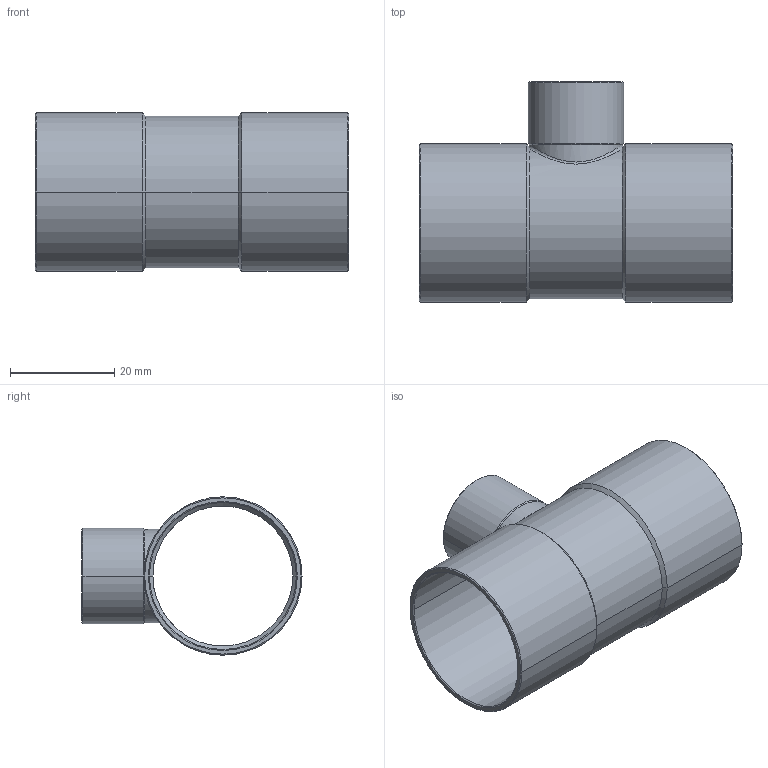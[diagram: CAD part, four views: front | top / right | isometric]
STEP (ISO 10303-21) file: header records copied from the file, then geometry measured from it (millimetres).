
FILE_DESCRIPTION((''),'2;1');
FILE_NAME('G:\Technics\CAD\Bauteile\15130\15130281628.stp','2005-11-03T13:42:41',('boden'),(''),'Autodesk Inventor 8','Autodesk Inventor 8','');
FILE_SCHEMA(('AUTOMOTIVE_DESIGN { 1 0 10303 214 1 1 1 1 }'));
Length unit declared in the file: millimetre
Products named in the file (1): 15130281628
Bounding box: 60 x 42.17 x 30.35 mm (x, y, z)
Volume: 6618.6 mm3; surface area: 12255.1 mm2
Topology: 1 solids, 1 shells, 48 faces, 108 edges, 61 vertices
Faces by surface type: cone 24, cylinder 20, plane 3, bspline 1
Entity records: 1673 total; most frequent: CARTESIAN_POINT 577, DIRECTION 236, ORIENTED_EDGE 216, EDGE_CURVE 108, AXIS2_PLACEMENT_3D 97, VERTEX_POINT 61, EDGE_LOOP 51, CIRCLE 49
